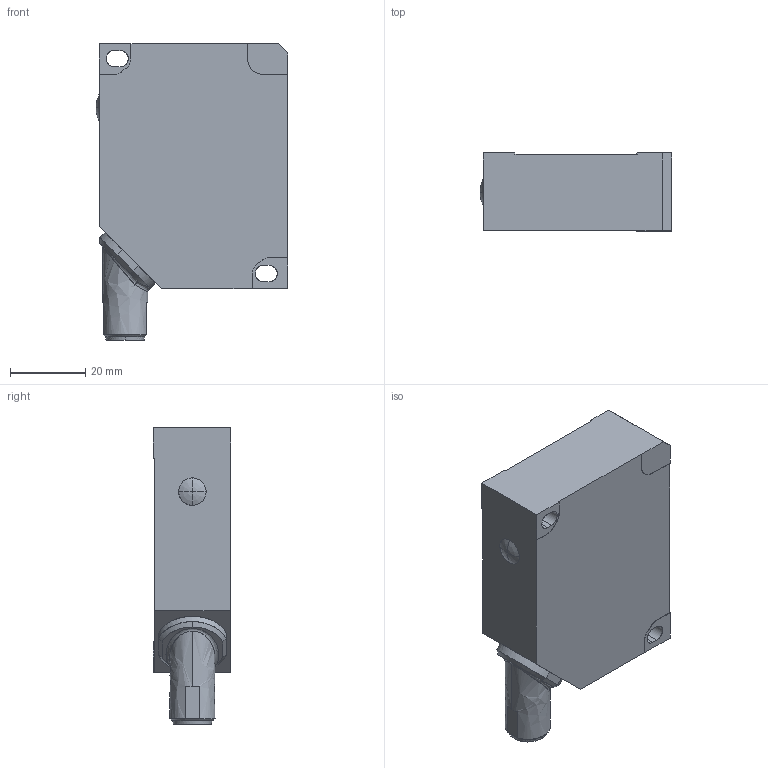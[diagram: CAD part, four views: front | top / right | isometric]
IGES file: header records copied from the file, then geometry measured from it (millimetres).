
Start section: Comment
Global section: file name: OADM20_Stecker drehbar.igs; native system:  By Spatial Corp.; preprocessor: XPlus GENERIC/IGES 3.0; author: Author; organization: Title; date: 20060919.134610; units: millimetre
Bounding box: 50.88 x 20.6 x 78.73 mm (x, y, z)
Surface area: 13328.1 mm2 (no closed solid volume)
Topology: 0 solids, 0 shells, 179 faces, 1004 edges, 1000 vertices
Faces by surface type: bspline 179
